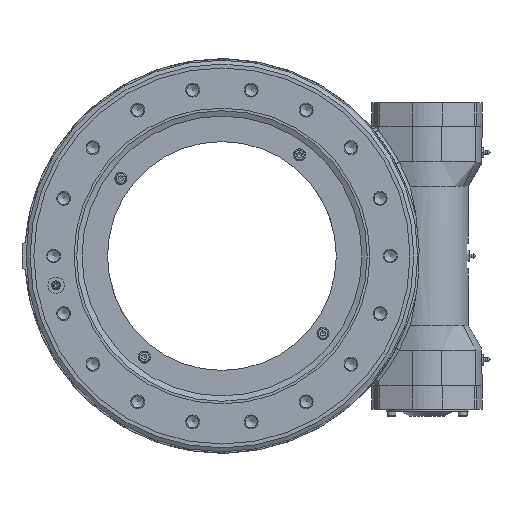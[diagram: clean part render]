
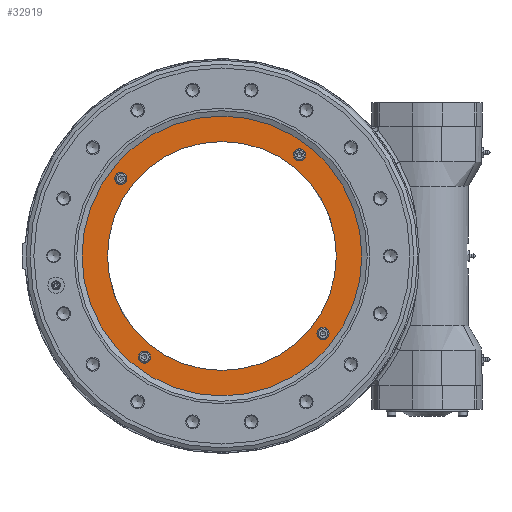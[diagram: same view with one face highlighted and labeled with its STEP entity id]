
A CAD part, left-side view. The second image highlights one B-rep face of the part: STEP entity #32919.
In plain terms, the highlighted planar face has unit normal (-1, 0, 0).
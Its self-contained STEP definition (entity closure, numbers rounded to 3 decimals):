
#389 = EDGE_LOOP ( 'NONE', ( #26325 ) ) ;
#451 = AXIS2_PLACEMENT_3D ( 'NONE', #4602, #23727, #30043 ) ;
#1590 = EDGE_LOOP ( 'NONE', ( #13111 ) ) ;
#1663 = FACE_BOUND ( 'NONE', #24502, .T. ) ;
#2225 = AXIS2_PLACEMENT_3D ( 'NONE', #5055, #23651, #4787 ) ;
#4340 = ORIENTED_EDGE ( 'NONE', *, *, #11034, .F. ) ;
#4476 = EDGE_CURVE ( 'NONE', #28252, #28252, #40254, .T. ) ;
#4602 = CARTESIAN_POINT ( 'NONE',  ( -24., -117.02, -89.792 ) ) ;
#4722 = VERTEX_POINT ( 'NONE', #25967 ) ;
#4787 = DIRECTION ( 'NONE',  ( 0., 0., 1. ) ) ;
#5055 = CARTESIAN_POINT ( 'NONE',  ( -24., -89.792, 117.02 ) ) ;
#5314 = EDGE_CURVE ( 'NONE', #39461, #39461, #21966, .T. ) ;
#5515 = VERTEX_POINT ( 'NONE', #36950 ) ;
#5868 = EDGE_CURVE ( 'NONE', #4722, #4722, #9708, .T. ) ;
#6512 = CARTESIAN_POINT ( 'NONE',  ( -24., 89.792, -117.02 ) ) ;
#6965 = ORIENTED_EDGE ( 'NONE', *, *, #9953, .T. ) ;
#8979 = CARTESIAN_POINT ( 'NONE',  ( -24., 89.792, -124.02 ) ) ;
#9200 = CIRCLE ( 'NONE', #451, 7. ) ;
#9708 = CIRCLE ( 'NONE', #25110, 132.5 ) ;
#9953 = EDGE_CURVE ( 'NONE', #18878, #18878, #28289, .T. ) ;
#10635 = CARTESIAN_POINT ( 'NONE',  ( -24., -89.792, 124.02 ) ) ;
#11034 = EDGE_CURVE ( 'NONE', #31613, #31613, #31948, .T. ) ;
#11899 = PLANE ( 'NONE',  #28693 ) ;
#11913 = ORIENTED_EDGE ( 'NONE', *, *, #34382, .F. ) ;
#13111 = ORIENTED_EDGE ( 'NONE', *, *, #5868, .T. ) ;
#15048 = ORIENTED_EDGE ( 'NONE', *, *, #5314, .F. ) ;
#16214 = DIRECTION ( 'NONE',  ( 0., 0., -1. ) ) ;
#17211 = CARTESIAN_POINT ( 'NONE',  ( -24., 124.02, 89.792 ) ) ;
#17283 = AXIS2_PLACEMENT_3D ( 'NONE', #6512, #22465, #16214 ) ;
#17822 = FACE_BOUND ( 'NONE', #389, .T. ) ;
#18059 = DIRECTION ( 'NONE',  ( 0., 0., -1. ) ) ;
#18878 = VERTEX_POINT ( 'NONE', #36619 ) ;
#21966 = CIRCLE ( 'NONE', #34526, 7. ) ;
#22465 = DIRECTION ( 'NONE',  ( -1., 0., 0. ) ) ;
#22936 = DIRECTION ( 'NONE',  ( 1., 0., 0. ) ) ;
#23651 = DIRECTION ( 'NONE',  ( -1., 0., 0. ) ) ;
#23727 = DIRECTION ( 'NONE',  ( -1., 0., 0. ) ) ;
#24184 = EDGE_LOOP ( 'NONE', ( #4340 ) ) ;
#24502 = EDGE_LOOP ( 'NONE', ( #15048 ) ) ;
#24669 = FACE_OUTER_BOUND ( 'NONE', #37029, .T. ) ;
#25110 = AXIS2_PLACEMENT_3D ( 'NONE', #31967, #22936, #38108 ) ;
#25967 = CARTESIAN_POINT ( 'NONE',  ( -24., 0., -132.5 ) ) ;
#26155 = FACE_BOUND ( 'NONE', #24184, .T. ) ;
#26325 = ORIENTED_EDGE ( 'NONE', *, *, #4476, .F. ) ;
#27000 = DIRECTION ( 'NONE',  ( 0., 1., 0. ) ) ;
#27833 = DIRECTION ( 'NONE',  ( 0., 0., -1. ) ) ;
#28252 = VERTEX_POINT ( 'NONE', #10635 ) ;
#28289 = CIRCLE ( 'NONE', #37868, 170.25 ) ;
#28693 = AXIS2_PLACEMENT_3D ( 'NONE', #30924, #40042, #18059 ) ;
#29723 = EDGE_LOOP ( 'NONE', ( #11913 ) ) ;
#30043 = DIRECTION ( 'NONE',  ( 0., -1., 0. ) ) ;
#30924 = CARTESIAN_POINT ( 'NONE',  ( -24., 0., 0. ) ) ;
#31613 = VERTEX_POINT ( 'NONE', #8979 ) ;
#31948 = CIRCLE ( 'NONE', #17283, 7. ) ;
#31967 = CARTESIAN_POINT ( 'NONE',  ( -24., 0., 0. ) ) ;
#32861 = DIRECTION ( 'NONE',  ( -1., 0., 0. ) ) ;
#32919 = ADVANCED_FACE ( 'NONE', ( #1663, #26155, #32973, #17822, #33973, #24669 ), #11899, .F. ) ;
#32973 = FACE_BOUND ( 'NONE', #29723, .T. ) ;
#33973 = FACE_BOUND ( 'NONE', #1590, .T. ) ;
#34231 = CARTESIAN_POINT ( 'NONE',  ( -24., 0., 0. ) ) ;
#34382 = EDGE_CURVE ( 'NONE', #5515, #5515, #9200, .T. ) ;
#34526 = AXIS2_PLACEMENT_3D ( 'NONE', #39135, #32861, #27000 ) ;
#36619 = CARTESIAN_POINT ( 'NONE',  ( -24., 0., -170.25 ) ) ;
#36950 = CARTESIAN_POINT ( 'NONE',  ( -24., -124.02, -89.792 ) ) ;
#37029 = EDGE_LOOP ( 'NONE', ( #6965 ) ) ;
#37219 = DIRECTION ( 'NONE',  ( -1., 0., 0. ) ) ;
#37868 = AXIS2_PLACEMENT_3D ( 'NONE', #34231, #37219, #27833 ) ;
#38108 = DIRECTION ( 'NONE',  ( 0., 0., -1. ) ) ;
#39135 = CARTESIAN_POINT ( 'NONE',  ( -24., 117.02, 89.792 ) ) ;
#39461 = VERTEX_POINT ( 'NONE', #17211 ) ;
#40042 = DIRECTION ( 'NONE',  ( 1., 0., 0. ) ) ;
#40254 = CIRCLE ( 'NONE', #2225, 7. ) ;
